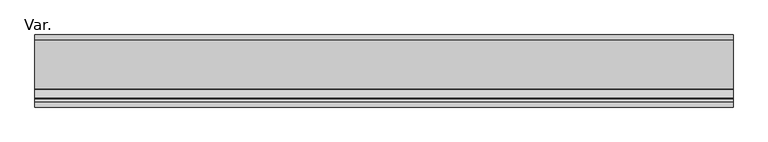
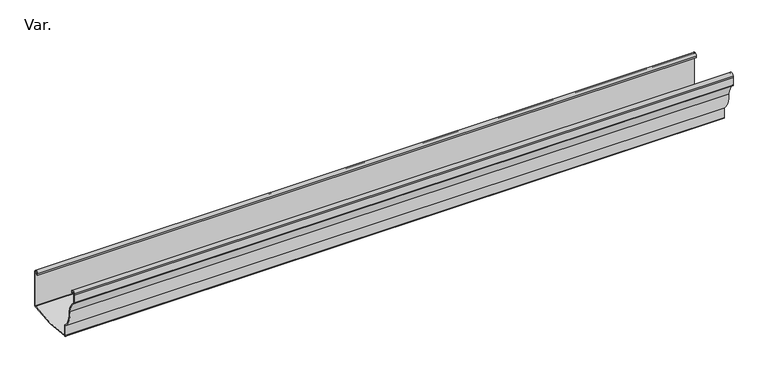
"""IFC4 building model written with IfcOpenShell, lengths in millimetres: pipe fitting geometry, PavcoWavin_UnionesDeTuberia_ZCanal Amazona_NoUsarUnion : Var.."""

from ifc_helpers import new_model, si_unit, frame, origin, place, context, project, spatial, polyline, circle_curve, source, transform, mapped, element, save
from ifc_brep_helpers import plane_surface, cylinder_surface, revolved_surface, advanced_brep


def var_f23e036e(model_context):
    return source(origin(), model_context, "Body", "AdvancedBrep", [
        advanced_brep(
        [(1500.0, -59.564377, 31.5531065), (1500.0, -59.564377, 8.3658519), (1500.0, -56.8176671, 5.3748117), (1500.0, 56.8176671, 5.3748117), (1500.0, 60.4356061, 8.3104805), (1500.0, 60.4356061, 86.3492993), (1500.0, 60.4356061, 89.9963402), (1500.0, 50.4356061, 89.9963402), (1500.0, 50.4356061, 86.3492993), (1500.0, 52.4356135, 86.3492993), (1500.0, 52.4356135, 90.0010565), (1500.0, 58.4356209, 90.0010565), (1500.0, 58.4356209, 86.3492993), (1500.0, 58.4356209, 8.3104805), (1500.0, 56.9493891, 7.4492644), (1500.0, -56.5684739, 7.3769675), (1500.0, -57.5663361, 8.3859882), (1500.0, -57.5663361, 32.5040421), (1500.0, -75.227416, 75.8591834), (1500.0, -92.1969353, 107.2803896), (1500.0, -92.5594169, 108.0446501), (1500.0, -92.5594169, 130.0051278), (1500.0, -86.5594095, 130.0051278), (1500.0, -86.5594095, 126.3533706), (1500.0, -84.559402, 126.3533706), (1500.0, -84.559402, 130.0004115), (1500.0, -94.559402, 130.0004115), (1500.0, -94.559402, 126.3533706), (1500.0, -94.559402, 108.0512017), (1500.0, -93.5010449, 105.7642774), (1500.0, -77.2432717, 75.8465022), (0.0, -59.564377, 31.5531065), (0.0, -77.2432717, 75.8465022), (0.0, -93.5010449, 105.7642774), (0.0, -94.559402, 108.0512017), (0.0, -94.559402, 126.3533706), (0.0, -94.559402, 130.0004115), (0.0, -84.559402, 130.0004115), (0.0, -84.559402, 126.3533706), (0.0, -86.5594095, 126.3533706), (0.0, -86.5594095, 130.0051278), (0.0, -92.5594169, 130.0051278), (0.0, -92.5594169, 108.0446501), (0.0, -92.1969353, 107.2803896), (0.0, -75.227416, 75.8591834), (0.0, -57.5663361, 32.5040421), (0.0, -57.5663361, 8.3859882), (0.0, -56.5684739, 7.3769675), (0.0, 56.9493891, 7.4492644), (0.0, 58.4300066, 8.3168368), (0.0, 58.4356209, 86.3492993), (0.0, 58.4356209, 90.0010565), (0.0, 52.4356135, 90.0010565), (0.0, 52.4356135, 86.3492993), (0.0, 50.4356061, 86.3492993), (0.0, 50.4356061, 89.9963402), (0.0, 60.4356061, 89.9963402), (0.0, 60.4356061, 86.3492993), (0.0, 60.4356061, 8.3104805), (0.0, 56.8176671, 5.3748117), (0.0, -56.8176671, 5.3748117), (0.0, -59.564377, 8.3658519)],
        [
            (0, 1),
            (1, 2, circle_curve(frame((1500.0, -56.5624697, 8.3658519), z_axis=(1.0, 0.0, 0.0), x_axis=(0.0, -1.0, 0.0)), 3.0019073)),
            (2, 3, circle_curve(frame((1500.0, 0.0, 303.0), z_axis=(1.0, 0.0, 0.0), x_axis=(0.0, -1.0, 0.0)), 303.0)),
            (3, 4, circle_curve(frame((1500.0, 57.4356061, 8.3104805), z_axis=(1.0, 0.0, 0.0), x_axis=(0.0, -1.0, 0.0)), 3.0)),
            (4, 5),
            (5, 6),
            (6, 7, circle_curve(frame((1500.0, 55.4356061, 89.9963402), z_axis=(1.0, 0.0, 0.0), x_axis=(0.0, -1.0, 0.0)), 5.0)),
            (7, 8),
            (8, 9),
            (9, 10),
            (10, 11, circle_curve(frame((1500.0, 55.4356172, 90.0010565), z_axis=(-1.0, 0.0, 0.0), x_axis=(0.0, -1.0, 0.0)), 3.0000037)),
            (11, 12),
            (12, 13),
            (13, 14, circle_curve(frame((1500.0, 57.4355195, 8.3168368), z_axis=(-1.0, 0.0, 0.0), x_axis=(0.0, -1.0, 0.0)), 0.9944871)),
            (14, 15, circle_curve(frame((1500.0, 0.0022011, 303.0063856), z_axis=(-1.0, 0.0, 0.0), x_axis=(0.0, -1.0, 0.0)), 300.9933456)),
            (15, 16, circle_curve(frame((1500.0, -56.557253, 8.3859882), z_axis=(-1.0, 0.0, 0.0), x_axis=(0.0, -1.0, 0.0)), 1.0090831)),
            (16, 17),
            (17, 18, circle_curve(frame((1500.0, -27.5874082, 69.9909745), z_axis=(-1.0, 0.0, 0.0), x_axis=(0.0, -1.0, 0.0)), 48.0000647)),
            (18, 19, circle_curve(frame((1500.0, -124.8053484, 69.3767687), z_axis=(1.0, 0.0, 0.0), x_axis=(0.0, -1.0, 0.0)), 49.9999308)),
            (19, 20, circle_curve(frame((1500.0, -91.5166666, 108.0711257), z_axis=(-1.0, 0.0, 0.0), x_axis=(0.0, -1.0, 0.0)), 1.0430864)),
            (20, 21),
            (21, 22, circle_curve(frame((1500.0, -89.5594132, 130.0051278), z_axis=(-1.0, 0.0, 0.0), x_axis=(0.0, -1.0, 0.0)), 3.0000037)),
            (22, 23),
            (23, 24),
            (24, 25),
            (25, 26, circle_curve(frame((1500.0, -89.559402, 130.0004115), z_axis=(1.0, 0.0, 0.0), x_axis=(0.0, -1.0, 0.0)), 5.0)),
            (26, 27),
            (27, 28),
            (28, 29, circle_curve(frame((1500.0, -91.5165269, 108.0710438), z_axis=(1.0, 0.0, 0.0), x_axis=(0.0, -1.0, 0.0)), 3.0429398)),
            (29, 30, circle_curve(frame((1500.0, -124.8052677, 69.3768395), z_axis=(-1.0, 0.0, 0.0), x_axis=(0.0, -1.0, 0.0)), 48.0)),
            (30, 0, circle_curve(frame((1500.0, -27.5873294, 69.990958), z_axis=(1.0, 0.0, 0.0), x_axis=(0.0, -1.0, 0.0)), 50.0)),
            (31, 32, circle_curve(frame((0.0, -27.5873294, 69.990958), z_axis=(-1.0, 0.0, 0.0), x_axis=(0.0, -1.0, 0.0)), 50.0)),
            (32, 33, circle_curve(frame((0.0, -124.8052677, 69.3768395), z_axis=(1.0, 0.0, 0.0), x_axis=(0.0, -1.0, 0.0)), 48.0)),
            (33, 34, circle_curve(frame((0.0, -91.5165269, 108.0710438), z_axis=(-1.0, 0.0, 0.0), x_axis=(0.0, -1.0, 0.0)), 3.0429398)),
            (34, 35),
            (35, 36),
            (36, 37, circle_curve(frame((0.0, -89.559402, 130.0004115), z_axis=(-1.0, 0.0, 0.0), x_axis=(0.0, -1.0, 0.0)), 5.0)),
            (37, 38),
            (38, 39),
            (39, 40),
            (40, 41, circle_curve(frame((0.0, -89.5594132, 130.0051278), z_axis=(1.0, 0.0, 0.0), x_axis=(0.0, -1.0, 0.0)), 3.0000037)),
            (41, 42),
            (42, 43, circle_curve(frame((0.0, -91.5166666, 108.0711257), z_axis=(1.0, 0.0, 0.0), x_axis=(0.0, -1.0, 0.0)), 1.0430864)),
            (43, 44, circle_curve(frame((0.0, -124.8053484, 69.3767687), z_axis=(-1.0, 0.0, 0.0), x_axis=(0.0, -1.0, 0.0)), 49.9999308)),
            (44, 45, circle_curve(frame((0.0, -27.5874082, 69.9909745), z_axis=(1.0, 0.0, 0.0), x_axis=(0.0, -1.0, 0.0)), 48.0000647)),
            (45, 46),
            (46, 47, circle_curve(frame((0.0, -56.557253, 8.3859882), z_axis=(1.0, 0.0, 0.0), x_axis=(0.0, -1.0, 0.0)), 1.0090831)),
            (47, 48, circle_curve(frame((0.0, 0.0022011, 303.0063856), z_axis=(1.0, 0.0, 0.0), x_axis=(0.0, -1.0, 0.0)), 300.9933456)),
            (48, 49, circle_curve(frame((0.0, 57.4355195, 8.3168368), z_axis=(1.0, 0.0, 0.0), x_axis=(0.0, -1.0, 0.0)), 0.9944871)),
            (49, 50),
            (50, 51),
            (51, 52, circle_curve(frame((0.0, 55.4356172, 90.0010565), z_axis=(1.0, 0.0, 0.0), x_axis=(0.0, -1.0, 0.0)), 3.0000037)),
            (52, 53),
            (53, 54),
            (54, 55),
            (55, 56, circle_curve(frame((0.0, 55.4356061, 89.9963402), z_axis=(-1.0, 0.0, 0.0), x_axis=(0.0, -1.0, 0.0)), 5.0)),
            (56, 57),
            (57, 58),
            (58, 59, circle_curve(frame((0.0, 57.4356061, 8.3104805), z_axis=(-1.0, 0.0, 0.0), x_axis=(0.0, -1.0, 0.0)), 3.0)),
            (59, 60, circle_curve(frame((0.0, 0.0, 303.0), z_axis=(-1.0, 0.0, 0.0), x_axis=(0.0, -1.0, 0.0)), 303.0)),
            (60, 61, circle_curve(frame((0.0, -56.5624697, 8.3658519), z_axis=(-1.0, 0.0, 0.0), x_axis=(0.0, -1.0, 0.0)), 3.0019073)),
            (61, 31),
            (16, 46),
            (45, 17),
            (11, 51),
            (50, 12),
            (9, 53),
            (52, 10),
            (8, 54),
            (5, 57),
            (56, 6),
            (4, 58),
            (0, 31),
            (61, 1),
            (3, 59),
            (15, 47),
            (14, 48),
            (13, 49),
            (7, 55),
            (2, 60),
            (30, 32),
            (29, 33),
            (28, 34),
            (27, 35),
            (26, 36),
            (25, 37),
            (24, 38),
            (23, 39),
            (22, 40),
            (21, 41),
            (20, 42),
            (19, 43),
            (18, 44),
        ],
        [
            plane_surface(frame((1500.0, -59.564377, 7.5710038), z_axis=(1.0, 0.0, 0.0), x_axis=(0.0, 0.0, -1.0))),
            plane_surface(frame((0.0, -59.564377, 7.5710038), z_axis=(-1.0, 0.0, 0.0), x_axis=(0.0, 0.0, 1.0))),
            plane_surface(frame((1500.0, -57.5663361, 8.3859882), z_axis=(0.0, 1.0, 0.0), x_axis=(-1.0, 0.0, 0.0))),
            plane_surface(frame((1500.0, 58.4356209, 90.0010565), z_axis=(0.0, -1.0, 0.0), x_axis=(-1.0, 0.0, 0.0))),
            plane_surface(frame((1500.0, 52.4356135, 86.3492993), z_axis=(0.0, 1.0, 0.0), x_axis=(-1.0, 0.0, 0.0))),
            plane_surface(frame((1500.0, 50.4356061, 86.3492993), z_axis=(0.0, 0.0, -1.0), x_axis=(-1.0, 0.0, 0.0))),
            plane_surface(frame((1500.0, 60.4356061, 86.3492993), z_axis=(0.0, 1.0, 0.0), x_axis=(-1.0, 0.0, 0.0))),
            plane_surface(frame((1500.0, 60.4356061, 8.3104805), z_axis=(0.0, 1.0, 0.0), x_axis=(-1.0, 0.0, 0.0))),
            plane_surface(frame((1500.0, -59.564377, 31.5531065), z_axis=(0.0, -1.0, 0.0), x_axis=(-1.0, 0.0, 0.0))),
            cylinder_surface(frame((0.0, 57.4356061, 8.3104805), z_axis=(1.0, 0.0, 0.0), x_axis=(0.0, -1.0, 0.0)), 3.0),
            revolved_surface(polyline([(0.0, -57.5663361, 8.3859882), (1500.0, -57.5663361, 8.3859882)]), (0.0, -56.557253, 8.3859882), (-1.0, 0.0, 0.0)),
            revolved_surface(polyline([(0.0, -300.9911445, 303.0063856), (1500.0, -300.9911445, 303.0063856)]), (0.0, 0.0022011, 303.0063856), (-1.0, 0.0, 0.0)),
            revolved_surface(polyline([(0.0, 56.4410324, 8.3168368), (1500.0, 56.4410324, 8.3168368)]), (0.0, 57.4355195, 8.3168368), (-1.0, 0.0, 0.0)),
            plane_surface(frame((1500.0, 58.4356209, 86.3492993), z_axis=(0.0, -1.0, 0.0), x_axis=(-1.0, 0.0, 0.0))),
            revolved_surface(polyline([(0.0, 52.4356135, 90.0010565), (1500.0, 52.4356135, 90.0010565)]), (0.0, 55.4356172, 90.0010565), (-1.0, 0.0, 0.0)),
            plane_surface(frame((1500.0, 50.4356061, 89.9963402), z_axis=(0.0, -1.0, 0.0), x_axis=(-1.0, 0.0, 0.0))),
            cylinder_surface(frame((0.0, 55.4356061, 89.9963402), z_axis=(1.0, 0.0, 0.0), x_axis=(0.0, -1.0, 0.0)), 5.0),
            cylinder_surface(frame((0.0, 0.0, 303.0), z_axis=(1.0, 0.0, 0.0), x_axis=(0.0, -1.0, 0.0)), 303.0),
            cylinder_surface(frame((0.0, -56.5624697, 8.3658519), z_axis=(1.0, 0.0, 0.0), x_axis=(0.0, -1.0, 0.0)), 3.0019073),
            cylinder_surface(frame((0.0, -27.5873294, 69.990958), z_axis=(1.0, 0.0, 0.0), x_axis=(0.0, -1.0, 0.0)), 50.0),
            revolved_surface(polyline([(0.0, -172.8052677, 69.3768395), (1500.0, -172.8052677, 69.3768395)]), (0.0, -124.8052677, 69.3768395), (-1.0, 0.0, 0.0)),
            cylinder_surface(frame((0.0, -91.5165269, 108.0710438), z_axis=(1.0, 0.0, 0.0), x_axis=(0.0, -1.0, 0.0)), 3.0429398),
            plane_surface(frame((1500.0, -94.559402, 126.3533706), z_axis=(0.0, -1.0, 0.0), x_axis=(-1.0, 0.0, 0.0))),
            plane_surface(frame((1500.0, -94.559402, 130.0004115), z_axis=(0.0, -1.0, 0.0), x_axis=(-1.0, 0.0, 0.0))),
            cylinder_surface(frame((0.0, -89.559402, 130.0004115), z_axis=(1.0, 0.0, 0.0), x_axis=(0.0, -1.0, 0.0)), 5.0),
            plane_surface(frame((1500.0, -84.559402, 126.3533706), z_axis=(0.0, 1.0, 0.0), x_axis=(-1.0, 0.0, 0.0))),
            plane_surface(frame((1500.0, -86.5594095, 126.3533706), z_axis=(0.0, 0.0, -1.0), x_axis=(-1.0, 0.0, 0.0))),
            plane_surface(frame((1500.0, -86.5594095, 130.0051278), z_axis=(0.0, -1.0, 0.0), x_axis=(-1.0, 0.0, 0.0))),
            revolved_surface(polyline([(0.0, -92.55941689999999, 130.0051278), (1500.0, -92.55941689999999, 130.0051278)]), (0.0, -89.5594132, 130.0051278), (-1.0, 0.0, 0.0)),
            plane_surface(frame((1500.0, -92.5594169, 108.0446501), z_axis=(0.0, 1.0, 0.0), x_axis=(-1.0, 0.0, 0.0))),
            revolved_surface(polyline([(0.0, -92.559753, 108.0711257), (1500.0, -92.559753, 108.0711257)]), (0.0, -91.5166666, 108.0711257), (-1.0, 0.0, 0.0)),
            cylinder_surface(frame((0.0, -124.8053484, 69.3767687), z_axis=(1.0, 0.0, 0.0), x_axis=(0.0, -1.0, 0.0)), 49.9999308),
            revolved_surface(polyline([(0.0, -75.5874729, 69.9909745), (1500.0, -75.5874729, 69.9909745)]), (0.0, -27.5874082, 69.9909745), (-1.0, 0.0, 0.0)),
        ],
        [
            (0, [[1, 2, 3, 4, 5, 6, 7, 8, 9, 10, 11, 12, 13, 14, 15, 16, 17, 18, 19, 20, 21, 22, 23, 24, 25, 26, 27, 28, 29, 30, 31]]),
            (1, [[32, 33, 34, 35, 36, 37, 38, 39, 40, 41, 42, 43, 44, 45, 46, 47, 48, 49, 50, 51, 52, 53, 54, 55, 56, 57, 58, 59, 60, 61, 62]]),
            (2, [[-17, 63, -46, 64]]),
            (3, [[-12, 65, -51, 66]]),
            (4, [[-10, 67, -53, 68]]),
            (5, [[-9, 69, -54, -67]]),
            (6, [[-6, 70, -57, 71]]),
            (7, [[-5, 72, -58, -70]]),
            (8, [[-1, 73, -62, 74]]),
            (9, [[-4, 75, -59, -72]]),
            (10, [[-16, 76, -47, -63]]),
            (11, [[-15, 77, -48, -76]]),
            (12, [[-14, 78, -49, -77]]),
            (13, [[-13, -66, -50, -78]]),
            (14, [[-11, -68, -52, -65]]),
            (15, [[-8, 79, -55, -69]]),
            (16, [[-7, -71, -56, -79]]),
            (17, [[-3, 80, -60, -75]]),
            (18, [[-2, -74, -61, -80]]),
            (19, [[-31, 81, -32, -73]]),
            (20, [[-30, 82, -33, -81]]),
            (21, [[-29, 83, -34, -82]]),
            (22, [[-28, 84, -35, -83]]),
            (23, [[-27, 85, -36, -84]]),
            (24, [[-26, 86, -37, -85]]),
            (25, [[-25, 87, -38, -86]]),
            (26, [[-24, 88, -39, -87]]),
            (27, [[-23, 89, -40, -88]]),
            (28, [[-22, 90, -41, -89]]),
            (29, [[-21, 91, -42, -90]]),
            (30, [[-20, 92, -43, -91]]),
            (31, [[-19, 93, -44, -92]]),
            (32, [[-18, -64, -45, -93]]),
        ],
    ),
    ])


if __name__ == "__main__":
    model = new_model("IFC4")
    model_context = context("Model", 3, world=origin())
    ifc_project = project(units=[si_unit("LENGTHUNIT", "METRE", prefix="MILLI")], contexts=[model_context])
    site = spatial("IfcSite", under=ifc_project)
    building = spatial("IfcBuilding", under=site)
    placement = place(None, origin())
    var_shape = var_f23e036e(model_context)
    element("IfcPipeFitting", 1, ObjectType="PavcoWavin_UnionesDeTuberia_ZCanal Amazona_NoUsarUnion : Var.", at=placement, inside=building, context=model_context, shape_type="MappedRepresentation", body=[
        mapped(var_shape, transform((0.0, 0.0, 0.0), x_axis=(1.0, 0.0, 0.0), y_axis=(0.0, 1.0, 0.0), z_axis=(0.0, 0.0, 1.0))),
    ])
    save(model, "model.ifc")
